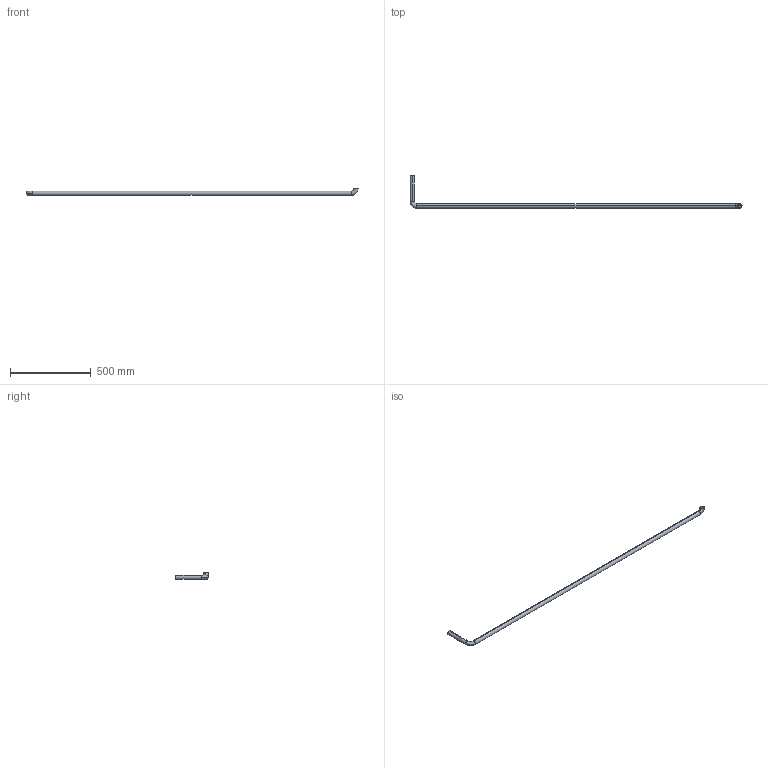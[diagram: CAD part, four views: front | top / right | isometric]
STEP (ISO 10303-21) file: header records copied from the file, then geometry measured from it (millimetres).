
FILE_DESCRIPTION (( 'STEP AP214' ), '1' );
FILE_NAME ('CCJ029-REP.202 - LISSE PLATEFORME INTERMEDIAIRE.STEP', '2025-10-30T15:32:16', ( '' ), ( '' ), 'SwSTEP 2.0', 'SolidWorks 2021', '' );
FILE_SCHEMA (( 'AUTOMOTIVE_DESIGN' ));
Length unit declared in the file: millimetre
Products named in the file (1): CCJ029-REP.202 - LISSE PLATEFORME INTERMEDIAIRE
Bounding box: 2061.9 x 200.45 x 42.45 mm (x, y, z)
Volume: 348277.2 mm3; surface area: 348590.1 mm2
Topology: 1 solids, 1 shells, 18 faces, 44 edges, 28 vertices
Faces by surface type: torus 8, cylinder 8, plane 2
Entity records: 590 total; most frequent: DIRECTION 118, CARTESIAN_POINT 91, ORIENTED_EDGE 88, AXIS2_PLACEMENT_3D 55, EDGE_CURVE 44, CIRCLE 36, VERTEX_POINT 28, EDGE_LOOP 20
